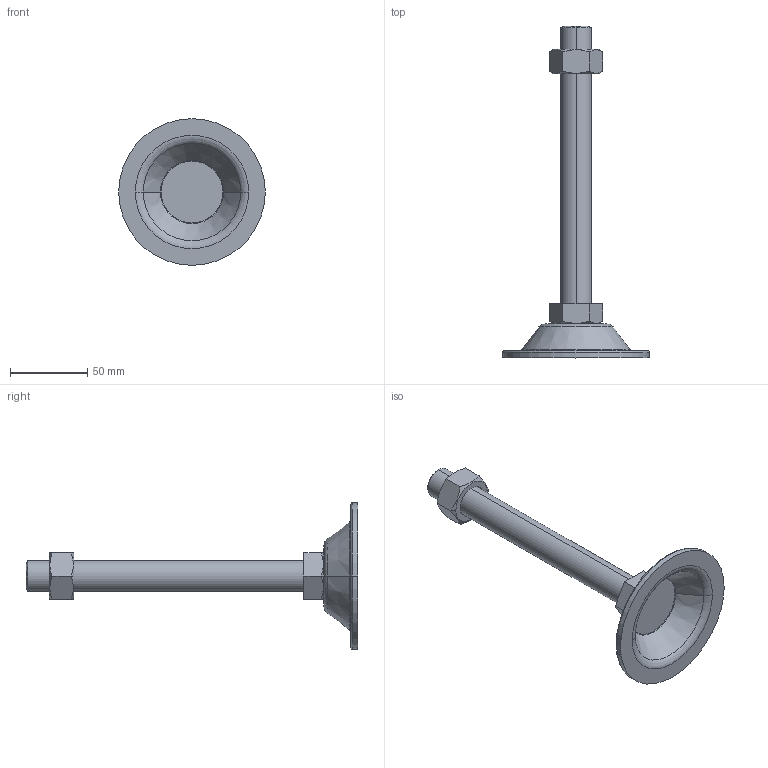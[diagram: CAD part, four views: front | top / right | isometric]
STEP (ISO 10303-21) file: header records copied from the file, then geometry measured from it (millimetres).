
FILE_DESCRIPTION (( 'STEP AP214' ), '1' );
FILE_NAME ('BL95-M20-180.step', '2021-01-06T05:41:35', ( '' ), ( '' ), 'SwSTEP 2.0', 'SolidWorks 2019', '' );
FILE_SCHEMA (( 'AUTOMOTIVE_DESIGN' ));
Length unit declared in the file: millimetre
Products named in the file (1): BL95-M20-180
Bounding box: 95 x 215 x 95 mm (x, y, z)
Volume: 112178.3 mm3; surface area: 35810.4 mm2
Topology: 3 solids, 3 shells, 53 faces, 110 edges, 66 vertices
Faces by surface type: plane 21, cone 16, torus 10, cylinder 6
Entity records: 1630 total; most frequent: CARTESIAN_POINT 440, DIRECTION 252, ORIENTED_EDGE 220, EDGE_CURVE 110, AXIS2_PLACEMENT_3D 106, VERTEX_POINT 66, EDGE_LOOP 58, FACE_OUTER_BOUND 53
